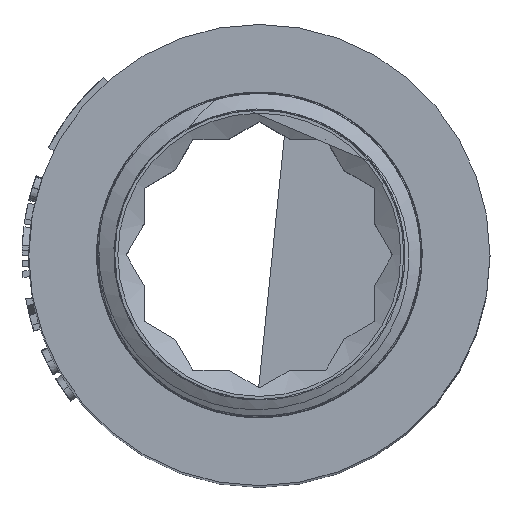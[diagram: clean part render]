
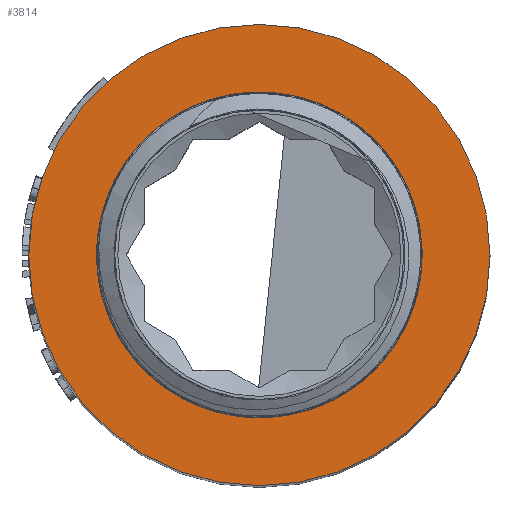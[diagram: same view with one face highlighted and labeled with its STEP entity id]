
A CAD part, top view. The second image highlights one B-rep face of the part: STEP entity #3814.
In plain terms, the highlighted planar face has unit normal (0, 0, 1).
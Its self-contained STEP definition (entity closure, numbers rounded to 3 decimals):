
#84=FACE_BOUND('',#890,.T.);
#488=PLANE('',#4052);
#658=FACE_OUTER_BOUND('',#889,.T.);
#889=EDGE_LOOP('',(#3278,#3279));
#890=EDGE_LOOP('',(#3280,#3281));
#1376=CIRCLE('',#3889,10.72);
#1379=CIRCLE('',#3892,10.72);
#1400=CIRCLE('',#3932,17.1);
#1401=CIRCLE('',#3933,17.1);
#1468=VERTEX_POINT('',#4778);
#1469=VERTEX_POINT('',#4779);
#1516=VERTEX_POINT('',#5026);
#1517=VERTEX_POINT('',#5027);
#1858=EDGE_CURVE('',#1468,#1469,#1376,.T.);
#1862=EDGE_CURVE('',#1469,#1468,#1379,.T.);
#1929=EDGE_CURVE('',#1516,#1517,#1400,.T.);
#1930=EDGE_CURVE('',#1517,#1516,#1401,.T.);
#3278=ORIENTED_EDGE('',*,*,#1929,.T.);
#3279=ORIENTED_EDGE('',*,*,#1930,.T.);
#3280=ORIENTED_EDGE('',*,*,#1858,.F.);
#3281=ORIENTED_EDGE('',*,*,#1862,.F.);
#3814=ADVANCED_FACE('',(#658,#84),#488,.T.);
#3889=AXIS2_PLACEMENT_3D('',#4780,#4116,#4117);
#3892=AXIS2_PLACEMENT_3D('',#4786,#4123,#4124);
#3932=AXIS2_PLACEMENT_3D('',#5028,#4239,#4240);
#3933=AXIS2_PLACEMENT_3D('',#5029,#4241,#4242);
#4052=AXIS2_PLACEMENT_3D('',#7875,#4627,#4628);
#4116=DIRECTION('center_axis',(0.,0.,1.));
#4117=DIRECTION('ref_axis',(1.,0.,0.));
#4123=DIRECTION('center_axis',(0.,0.,1.));
#4124=DIRECTION('ref_axis',(1.,0.,0.));
#4239=DIRECTION('center_axis',(0.,0.,1.));
#4240=DIRECTION('ref_axis',(1.,0.,0.));
#4241=DIRECTION('center_axis',(0.,0.,1.));
#4242=DIRECTION('ref_axis',(1.,0.,0.));
#4627=DIRECTION('center_axis',(0.,0.,1.));
#4628=DIRECTION('ref_axis',(1.,0.,0.));
#4778=CARTESIAN_POINT('',(0.,10.72,-12.));
#4779=CARTESIAN_POINT('',(0.,-10.72,-12.));
#4780=CARTESIAN_POINT('Origin',(0.,0.,-12.));
#4786=CARTESIAN_POINT('Origin',(0.,0.,-12.));
#5026=CARTESIAN_POINT('',(0.,-17.1,-12.));
#5027=CARTESIAN_POINT('',(0.,17.1,-12.));
#5028=CARTESIAN_POINT('Origin',(0.,0.,-12.));
#5029=CARTESIAN_POINT('Origin',(0.,0.,-12.));
#7875=CARTESIAN_POINT('Origin',(0.,-12.065,-12.));
